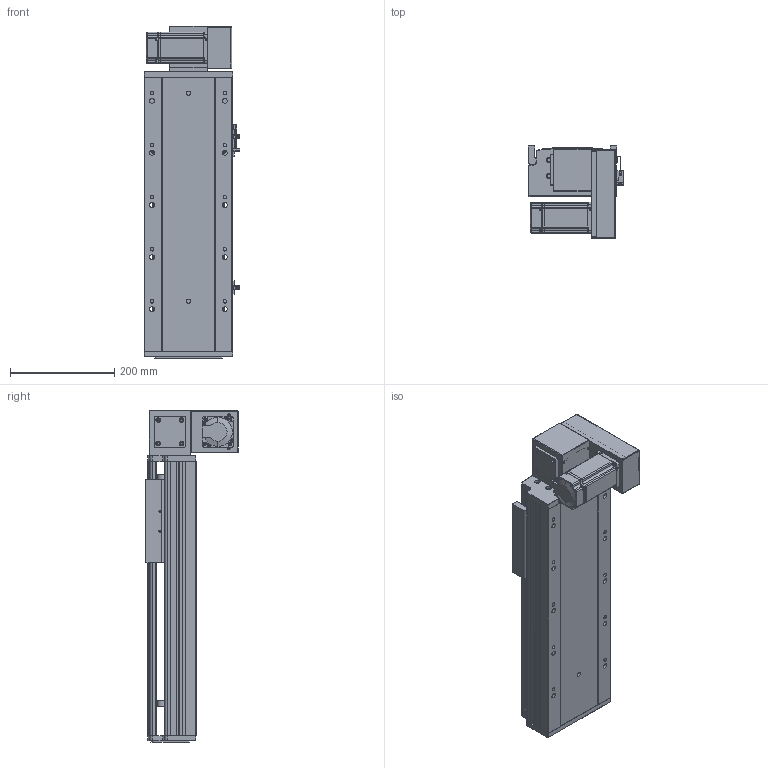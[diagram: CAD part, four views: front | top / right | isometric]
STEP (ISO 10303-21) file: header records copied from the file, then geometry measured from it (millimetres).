
FILE_DESCRIPTION (( 'STEP AP203' ), '1' );
FILE_NAME ('RY170-T-300-DR-P400W.SLDASM_250.step', '2021-03-01T08:22:33', ( '盈信电脑' ), ( '东莞市道滘镇水果街19号' ), 'SwSTEP 2.0', 'SolidWorks 2012', '' );
FILE_SCHEMA (( 'CONFIG_CONTROL_DESIGN' ));
Length unit declared in the file: millimetre
Products named in the file (19): 15; RY170-T-300-DR-P400W.SLDASM_250; RY170-T-呴雄粣揤踡啣; 滅袉蝶18-10; RY170-T蹟翐M4; RY120-T主同步轮轴承压盖; RY170-T肮祭謫裔啣; RY170-T肮祭湍揤踡輸2; RY170-T肮祭湍揤踡輸1; RY170同步轮电机安装板(400W); RY170肮祭謫ヶ裔啣; RY170肮祭謫萇儂欶; RY170翋肮祭謫釱; RY170外置感应片(200共用）; 覜茼ん672; RY170綴裔啣; RY170-T-300肮祭謫倰第裔啣-DR_250; RY170肮祭湍臏賑輸; RY170-T-300肮祭謫倰第菁釱-DR_250
Assembly tree (23 placements, depth 2):
  RY170-T-300-DR-P400W.SLDASM_250
    RY170-T-300肮祭謫倰第菁釱-DR_250
    RY170肮祭湍臏賑輸
    RY170-T-300肮祭謫倰第裔啣-DR_250
    RY170綴裔啣
    覜茼ん672  x3
    RY170外置感应片(200共用）
    RY170肮祭謫ヶ裔啣
    RY170翋肮祭謫釱
    RY170同步轮电机安装板(400W)
    RY170肮祭謫萇儂欶
    RY170-T肮祭湍揤踡輸1  x2
    RY170-T肮祭湍揤踡輸2  x2
    RY120-T主同步轮轴承压盖
    RY170-T肮祭謫裔啣
    RY170-T蹟翐M4
    滅袉蝶18-10  x2
    RY170-T-呴雄粣揤踡啣
    15
Bounding box: 183.7 x 178 x 638 mm (x, y, z)
Volume: 3786736.2 mm3; surface area: 1238288.1 mm2
Topology: 23 solids, 23 shells, 2594 faces, 7142 edges, 4613 vertices
Faces by surface type: plane 1260, cylinder 1116, cone 188, bspline 30
Entity records: 76157 total; most frequent: CARTESIAN_POINT 16357, ORIENTED_EDGE 12088, DIRECTION 11992, EDGE_CURVE 6044, AXIS2_PLACEMENT_3D 4178, VERTEX_POINT 3969, VECTOR 3636, LINE 3636
